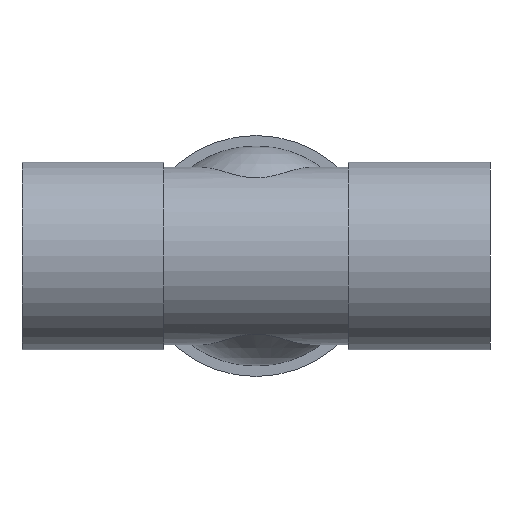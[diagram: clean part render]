
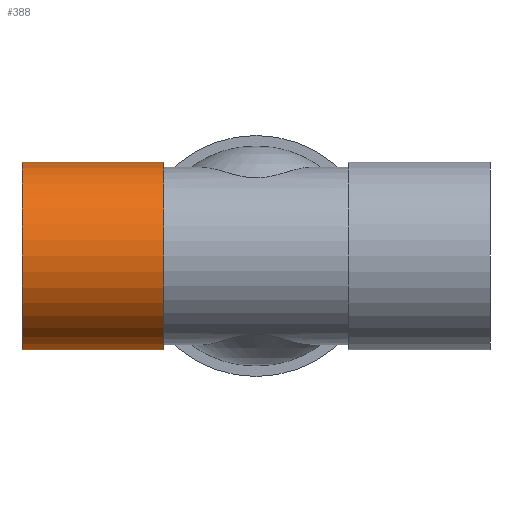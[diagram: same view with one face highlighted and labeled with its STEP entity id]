
A CAD part, front view. The second image highlights one B-rep face of the part: STEP entity #388.
In plain terms, the highlighted cylindrical face has radius 13.25 mm (diameter 26.5 mm), a partial arc.
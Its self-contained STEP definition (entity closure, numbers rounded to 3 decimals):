
#14 = VERTEX_POINT ( 'NONE', #854 ) ;
#16 = EDGE_CURVE ( 'NONE', #17, #14, #724, .T. ) ;
#17 = VERTEX_POINT ( 'NONE', #720 ) ;
#57 = EDGE_CURVE ( 'NONE', #59, #58, #956, .T. ) ;
#58 = VERTEX_POINT ( 'NONE', #952 ) ;
#59 = VERTEX_POINT ( 'NONE', #951 ) ;
#284 = EDGE_CURVE ( 'NONE', #58, #14, #1862, .T. ) ;
#319 = ORIENTED_EDGE ( 'NONE', *, *, #16, .T. ) ;
#350 = EDGE_CURVE ( 'NONE', #59, #17, #2168, .T. ) ;
#362 = ORIENTED_EDGE ( 'NONE', *, *, #350, .T. ) ;
#371 = ORIENTED_EDGE ( 'NONE', *, *, #284, .F. ) ;
#388 = ADVANCED_FACE ( 'NONE', ( #2185 ), #2184, .T. ) ;
#414 = EDGE_LOOP ( 'NONE', ( #438, #362, #319, #371 ) ) ;
#438 = ORIENTED_EDGE ( 'NONE', *, *, #57, .F. ) ;
#720 = CARTESIAN_POINT ( 'NONE',  ( -13., 0., 13.25 ) ) ;
#721 = DIRECTION ( 'NONE',  ( -1., 0., 0. ) ) ;
#722 = VECTOR ( 'NONE', #721, 1000. ) ;
#723 = CARTESIAN_POINT ( 'NONE',  ( -59.112, 0., 13.25 ) ) ;
#724 = LINE ( 'NONE', #723, #722 ) ;
#854 = CARTESIAN_POINT ( 'NONE',  ( -33., 0., 13.25 ) ) ;
#951 = CARTESIAN_POINT ( 'NONE',  ( -13., 0., -13.25 ) ) ;
#952 = CARTESIAN_POINT ( 'NONE',  ( -33., 0., -13.25 ) ) ;
#953 = DIRECTION ( 'NONE',  ( -1., 0., 0. ) ) ;
#954 = VECTOR ( 'NONE', #953, 1000. ) ;
#955 = CARTESIAN_POINT ( 'NONE',  ( -59.112, 0., -13.25 ) ) ;
#956 = LINE ( 'NONE', #955, #954 ) ;
#1855 = DIRECTION ( 'NONE',  ( 0., 0., 1. ) ) ;
#1856 = DIRECTION ( 'NONE',  ( -1., 0., 0. ) ) ;
#1857 = CARTESIAN_POINT ( 'NONE',  ( -33., 0., 0. ) ) ;
#1858 = AXIS2_PLACEMENT_3D ( 'NONE', #1857, #1856, #1855 ) ;
#1862 = CIRCLE ( 'NONE', #1858, 13.25 ) ;
#2164 = DIRECTION ( 'NONE',  ( 0., 0., 1. ) ) ;
#2165 = DIRECTION ( 'NONE',  ( -1., 0., 0. ) ) ;
#2166 = CARTESIAN_POINT ( 'NONE',  ( -13., 0., 0. ) ) ;
#2167 = AXIS2_PLACEMENT_3D ( 'NONE', #2166, #2165, #2164 ) ;
#2168 = CIRCLE ( 'NONE', #2167, 13.25 ) ;
#2181 = DIRECTION ( 'NONE',  ( -1., 0., 0. ) ) ;
#2182 = CARTESIAN_POINT ( 'NONE',  ( -59.112, 0., 0. ) ) ;
#2183 = AXIS2_PLACEMENT_3D ( 'NONE', #2182, #2181, #2245 ) ;
#2184 = CYLINDRICAL_SURFACE ( 'NONE', #2183, 13.25 ) ;
#2185 = FACE_OUTER_BOUND ( 'NONE', #414, .T. ) ;
#2245 = DIRECTION ( 'NONE',  ( 0., 0., 1. ) ) ;
